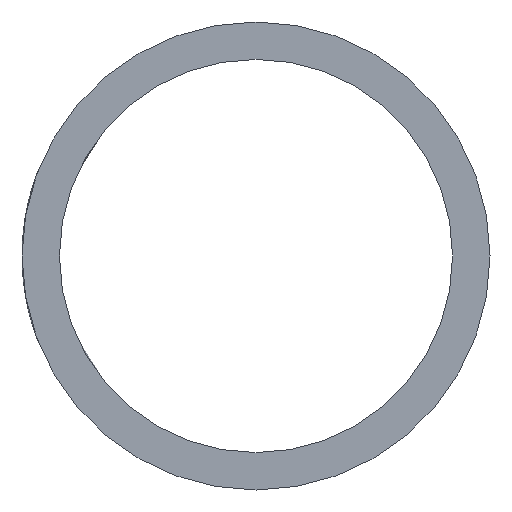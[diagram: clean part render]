
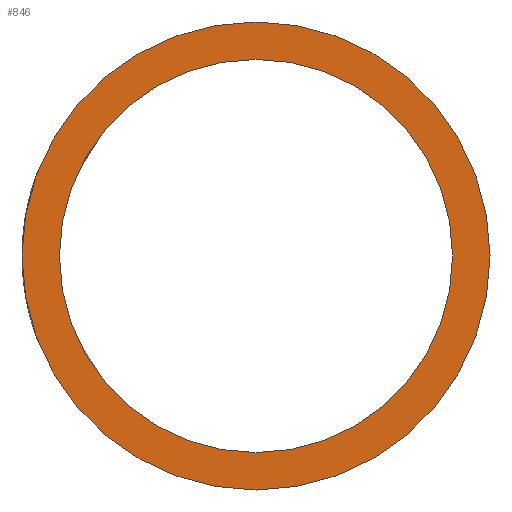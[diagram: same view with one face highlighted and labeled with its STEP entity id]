
A CAD part, front view. The second image highlights one B-rep face of the part: STEP entity #846.
In plain terms, the highlighted planar face has unit normal (0, -1, 0).
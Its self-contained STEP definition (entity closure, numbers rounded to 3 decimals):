
#17 = FACE_OUTER_BOUND ( 'NONE', #180, .T. ) ;
#108 = CARTESIAN_POINT ( 'NONE',  ( 0., -44., 10.5 ) ) ;
#133 = AXIS2_PLACEMENT_3D ( 'NONE', #746, #422, #387 ) ;
#169 = PLANE ( 'NONE',  #407 ) ;
#180 = EDGE_LOOP ( 'NONE', ( #364, #184 ) ) ;
#184 = ORIENTED_EDGE ( 'NONE', *, *, #741, .F. ) ;
#188 = CARTESIAN_POINT ( 'NONE',  ( 0., -44., 0. ) ) ;
#192 = AXIS2_PLACEMENT_3D ( 'NONE', #310, #508, #326 ) ;
#201 = EDGE_CURVE ( 'NONE', #313, #388, #533, .T. ) ;
#230 = AXIS2_PLACEMENT_3D ( 'NONE', #188, #534, #630 ) ;
#260 = DIRECTION ( 'NONE',  ( 0., 1., 0. ) ) ;
#280 = CARTESIAN_POINT ( 'NONE',  ( 0., -44., -10.5 ) ) ;
#295 = CIRCLE ( 'NONE', #406, 12.5 ) ;
#310 = CARTESIAN_POINT ( 'NONE',  ( 0., -44., 0. ) ) ;
#313 = VERTEX_POINT ( 'NONE', #108 ) ;
#325 = ORIENTED_EDGE ( 'NONE', *, *, #518, .T. ) ;
#326 = DIRECTION ( 'NONE',  ( 0., 0., 1. ) ) ;
#333 = CARTESIAN_POINT ( 'NONE',  ( 0., -44., 0. ) ) ;
#364 = ORIENTED_EDGE ( 'NONE', *, *, #715, .F. ) ;
#387 = DIRECTION ( 'NONE',  ( 0., 0., 1. ) ) ;
#388 = VERTEX_POINT ( 'NONE', #280 ) ;
#402 = EDGE_LOOP ( 'NONE', ( #667, #325 ) ) ;
#406 = AXIS2_PLACEMENT_3D ( 'NONE', #333, #260, #796 ) ;
#407 = AXIS2_PLACEMENT_3D ( 'NONE', #824, #681, #727 ) ;
#422 = DIRECTION ( 'NONE',  ( 0., 1., 0. ) ) ;
#435 = CIRCLE ( 'NONE', #230, 10.5 ) ;
#508 = DIRECTION ( 'NONE',  ( 0., 1., 0. ) ) ;
#518 = EDGE_CURVE ( 'NONE', #388, #313, #435, .T. ) ;
#533 = CIRCLE ( 'NONE', #133, 10.5 ) ;
#534 = DIRECTION ( 'NONE',  ( 0., 1., 0. ) ) ;
#538 = FACE_BOUND ( 'NONE', #402, .T. ) ;
#587 = VERTEX_POINT ( 'NONE', #770 ) ;
#630 = DIRECTION ( 'NONE',  ( 0., 0., 1. ) ) ;
#667 = ORIENTED_EDGE ( 'NONE', *, *, #201, .T. ) ;
#681 = DIRECTION ( 'NONE',  ( 0., 1., 0. ) ) ;
#715 = EDGE_CURVE ( 'NONE', #587, #774, #765, .T. ) ;
#727 = DIRECTION ( 'NONE',  ( 0., 0., 1. ) ) ;
#741 = EDGE_CURVE ( 'NONE', #774, #587, #295, .T. ) ;
#746 = CARTESIAN_POINT ( 'NONE',  ( 0., -44., 0. ) ) ;
#765 = CIRCLE ( 'NONE', #192, 12.5 ) ;
#770 = CARTESIAN_POINT ( 'NONE',  ( 0., -44., 12.5 ) ) ;
#774 = VERTEX_POINT ( 'NONE', #785 ) ;
#785 = CARTESIAN_POINT ( 'NONE',  ( 0., -44., -12.5 ) ) ;
#796 = DIRECTION ( 'NONE',  ( 0., 0., 1. ) ) ;
#824 = CARTESIAN_POINT ( 'NONE',  ( 10.5, -44., 0. ) ) ;
#846 = ADVANCED_FACE ( 'NONE', ( #17, #538 ), #169, .F. ) ;
